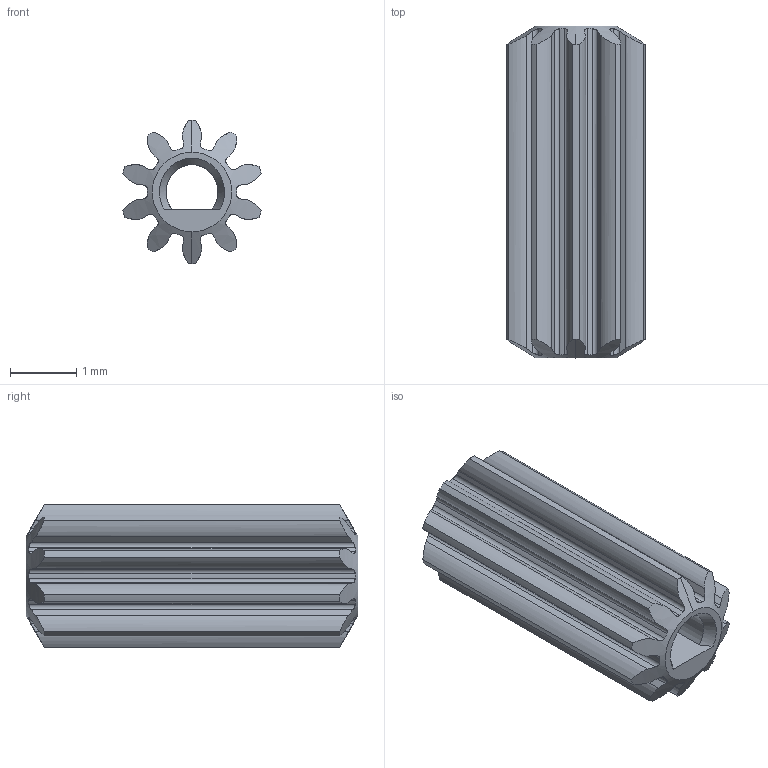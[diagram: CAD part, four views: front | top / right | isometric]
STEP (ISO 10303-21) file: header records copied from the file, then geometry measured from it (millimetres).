
FILE_DESCRIPTION (( 'STEP AP214' ), '1' );
FILE_NAME ('TRL-0046-A.STEP', '2021-06-25T20:27:20', ( '' ), ( '' ), 'SwSTEP 2.0', 'SolidWorks 2016', '' );
FILE_SCHEMA (( 'AUTOMOTIVE_DESIGN' ));
Length unit declared in the file: millimetre
Products named in the file (1): TRL-0046-A
Bounding box: 2.08 x 5 x 2.16 mm (x, y, z)
Volume: 9.6 mm3; surface area: 68.9 mm2
Topology: 1 solids, 1 shells, 92 faces, 268 edges, 178 vertices
Faces by surface type: cylinder 41, bspline 24, plane 23, cone 4
Entity records: 5478 total; most frequent: CARTESIAN_POINT 3213, ORIENTED_EDGE 536, DIRECTION 364, EDGE_CURVE 268, VERTEX_POINT 178, LINE 130, VECTOR 130, AXIS2_PLACEMENT_3D 117
